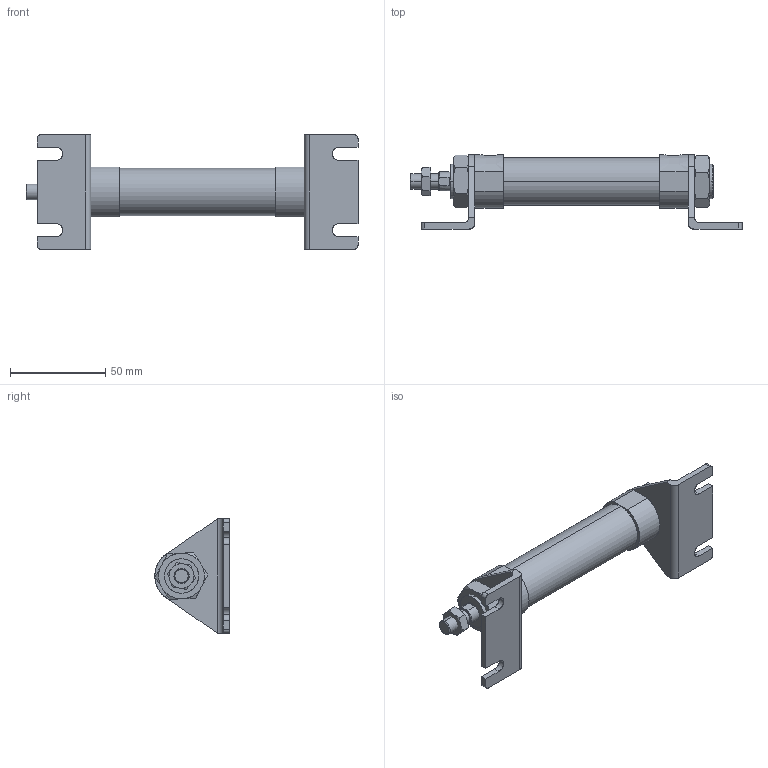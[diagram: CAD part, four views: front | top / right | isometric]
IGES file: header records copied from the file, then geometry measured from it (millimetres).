
Start section: SolidWorks IGES file using analytic representation for surfaces
Global section: file name: C:\Users\Toshiba\Desktop\J#2-20-50-L.IGS; native system: SolidWorks 2014; preprocessor: SolidWorks 2014; author: Toshiba; date: 160310.084927; units: millimetre
Bounding box: 174.2 x 39 x 60 mm (x, y, z)
Surface area: 29210.5 mm2 (no closed solid volume)
Topology: 0 solids, 0 shells, 168 faces, 2672 edges, 2672 vertices
Faces by surface type: bspline 110, revolution 58
